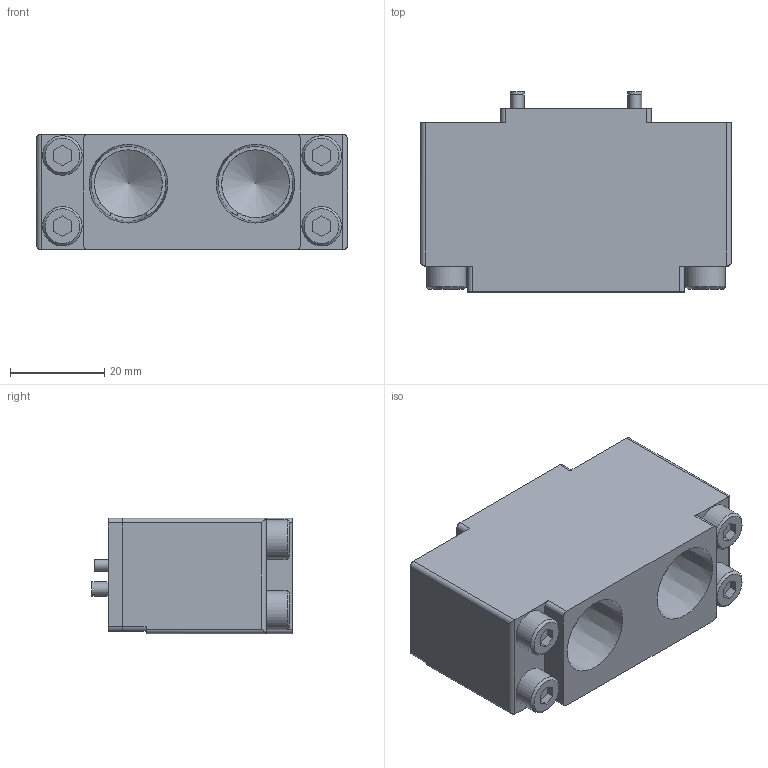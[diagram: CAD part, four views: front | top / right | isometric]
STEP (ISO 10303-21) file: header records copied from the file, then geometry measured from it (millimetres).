
FILE_DESCRIPTION(('STEP AP214'),'1');
FILE_NAME('KHB-7RS-EP102_ver1.stp','2026-04-27T01:25:57',(' '),(' '),'Spatial InterOp 3D',' ',' ');
FILE_SCHEMA(('AUTOMOTIVE_DESIGN { 1 0 10303 214 1 1 1 1 }'));
Length unit declared in the file: millimetre
Products named in the file (1): KHB-7RS-EP102_ver1
Bounding box: 66 x 42.5 x 24.5 mm (x, y, z)
Volume: 47337.8 mm3; surface area: 17096.8 mm2
Topology: 1 solids, 11 shells, 166 faces, 369 edges, 245 vertices
Faces by surface type: plane 100, cylinder 50, cone 16
Full cylindrical faces by diameter (mm): 2.5 x4, 3.5 x2, 4 x2, 4.2 x4, 5 x4, 5.41 x2, 5.5 x4, 6.5 x2, 8.385 x4, 12 x2, 14.4 x2
Entity records: 5620 total; most frequent: CARTESIAN_POINT 813, DIRECTION 740, ORIENTED_EDGE 594, EDGE_CURVE 297, AXIS2_PLACEMENT_3D 280, EDGE_LOOP 246, VERTEX_POINT 223, FACE_OUTER_BOUND 198
